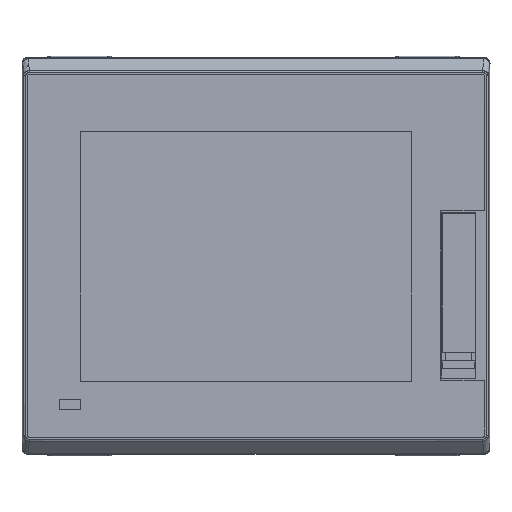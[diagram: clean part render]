
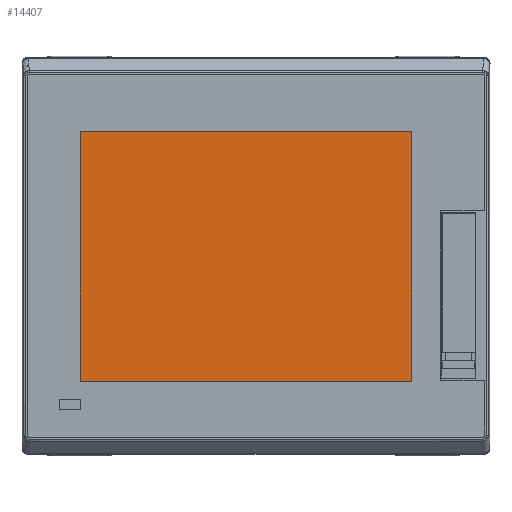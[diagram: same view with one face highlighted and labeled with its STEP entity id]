
A CAD part, top view. The second image highlights one B-rep face of the part: STEP entity #14407.
In plain terms, the highlighted planar face has unit normal (0, 0, 1).
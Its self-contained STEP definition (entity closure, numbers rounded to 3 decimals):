
#4435=DIRECTION('',(0.,1.,0.));
#4436=VECTOR('',#4435,87.4);
#4437=CARTESIAN_POINT('',(-61.6,-43.9,-0.24));
#4438=LINE('',#4437,#4436);
#4439=DIRECTION('',(1.,0.,0.));
#4440=VECTOR('',#4439,116.2);
#4441=CARTESIAN_POINT('',(-61.6,43.5,-0.24));
#4442=LINE('',#4441,#4440);
#4443=DIRECTION('',(0.,-1.,0.));
#4444=VECTOR('',#4443,87.4);
#4445=CARTESIAN_POINT('',(54.6,43.5,-0.24));
#4446=LINE('',#4445,#4444);
#4447=DIRECTION('',(-1.,0.,0.));
#4448=VECTOR('',#4447,116.2);
#4449=CARTESIAN_POINT('',(54.6,-43.9,-0.24));
#4450=LINE('',#4449,#4448);
#5655=CARTESIAN_POINT('',(-61.6,-43.9,-0.24));
#5656=CARTESIAN_POINT('',(-61.6,43.5,-0.24));
#5657=VERTEX_POINT('',#5655);
#5658=VERTEX_POINT('',#5656);
#5659=CARTESIAN_POINT('',(54.6,-43.9,-0.24));
#5660=VERTEX_POINT('',#5659);
#5661=CARTESIAN_POINT('',(54.6,43.5,-0.24));
#5662=VERTEX_POINT('',#5661);
#14396=CARTESIAN_POINT('',(0.,0.,-0.24));
#14397=DIRECTION('',(0.,0.,1.));
#14398=DIRECTION('',(1.,0.,0.));
#14399=AXIS2_PLACEMENT_3D('',#14396,#14397,#14398);
#14400=PLANE('',#14399);
#14401=ORIENTED_EDGE('',*,*,#14348,.T.);
#14402=ORIENTED_EDGE('',*,*,#14363,.T.);
#14403=ORIENTED_EDGE('',*,*,#14377,.T.);
#14404=ORIENTED_EDGE('',*,*,#14390,.T.);
#14405=EDGE_LOOP('',(#14401,#14402,#14403,#14404));
#14406=FACE_OUTER_BOUND('',#14405,.F.);
#14407=ADVANCED_FACE('',(#14406),#14400,.T.);
#14348=EDGE_CURVE('',#5657,#5658,#4438,.T.);
#14363=EDGE_CURVE('',#5658,#5662,#4442,.T.);
#14377=EDGE_CURVE('',#5662,#5660,#4446,.T.);
#14390=EDGE_CURVE('',#5660,#5657,#4450,.T.);
